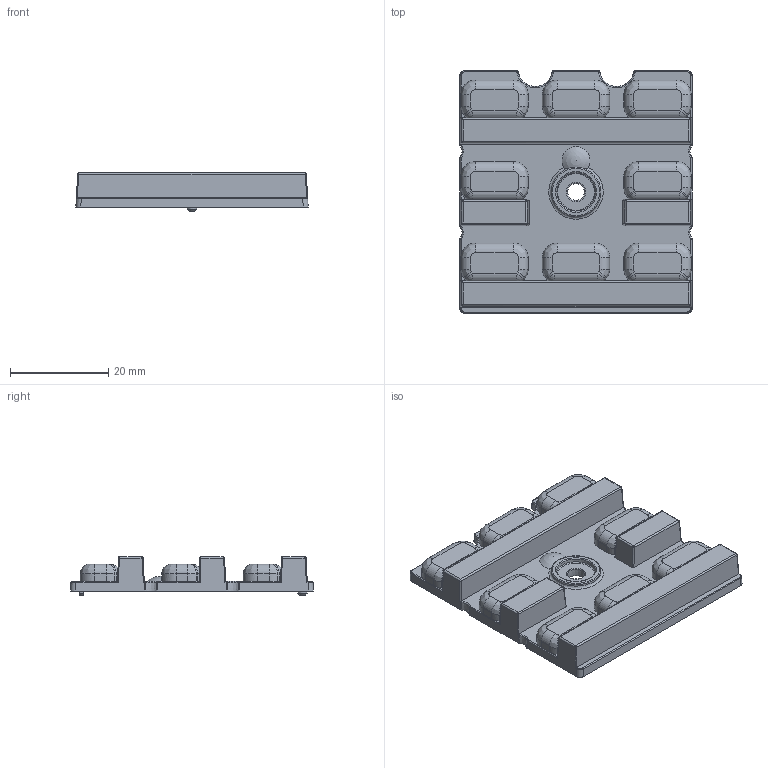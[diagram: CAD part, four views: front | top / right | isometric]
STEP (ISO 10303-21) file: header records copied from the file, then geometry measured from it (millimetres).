
FILE_DESCRIPTION(('STEP AP214'),'1');
FILE_NAME('240214_x75666_3D_AVIKA8X1_mechanics.stp','2024-02-14T15:18:50',(' '),(' '),'Spatial InterOp 3D',' ',' ');
FILE_SCHEMA(('AUTOMOTIVE_DESIGN { 1 0 10303 214 1 1 1 1 }'));
Length unit declared in the file: millimetre
Products named in the file (1): 240214_x75666_3D_AVIKA8X1_mechanics
Bounding box: 47.3 x 49.5 x 7.85 mm (x, y, z)
Volume: 8664.9 mm3; surface area: 7879.1 mm2
Topology: 1 solids, 1 shells, 733 faces, 1830 edges, 1042 vertices
Faces by surface type: cylinder 267, bspline 203, plane 166, sphere 34, torus 34, cone 29
Entity records: 99882 total; most frequent: CARTESIAN_POINT 77804, ORIENTED_EDGE 3496, DIRECTION 3349, EDGE_CURVE 1748, AXIS2_PLACEMENT_3D 1337, VERTEX_POINT 1035, EDGE_LOOP 753, FACE_OUTER_BOUND 737
